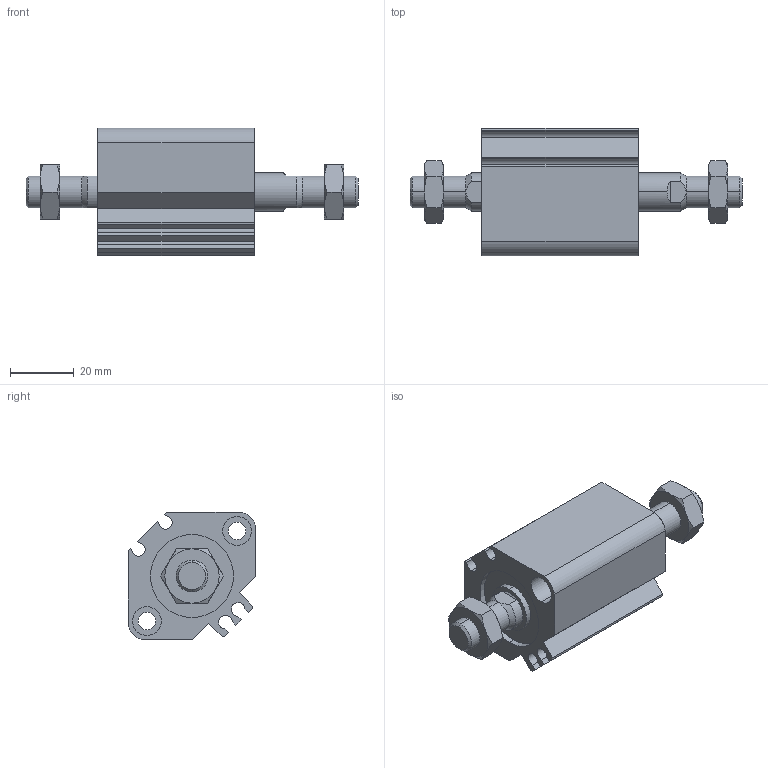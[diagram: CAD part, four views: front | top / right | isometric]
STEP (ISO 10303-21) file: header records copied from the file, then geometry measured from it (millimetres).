
FILE_DESCRIPTION (( 'STEP AP203' ), '1' );
FILE_NAME ('CCMB25-10M-P.STEP', '2020-08-10T11:27:24', ( '' ), ( '' ), 'SwSTEP 2.0', 'SolidWorks 2019', '' );
FILE_SCHEMA (( 'CONFIG_CONTROL_DESIGN' ));
Length unit declared in the file: millimetre
Products named in the file (1): CCMB25-10M-P
Bounding box: 104 x 40 x 40 mm (x, y, z)
Volume: 64049.2 mm3; surface area: 24913.5 mm2
Topology: 4 solids, 4 shells, 166 faces, 384 edges, 240 vertices
Faces by surface type: plane 66, cylinder 56, cone 44
Entity records: 5403 total; most frequent: CARTESIAN_POINT 1543, DIRECTION 806, ORIENTED_EDGE 768, EDGE_CURVE 384, AXIS2_PLACEMENT_3D 319, VERTEX_POINT 240, EDGE_LOOP 190, LINE 168
